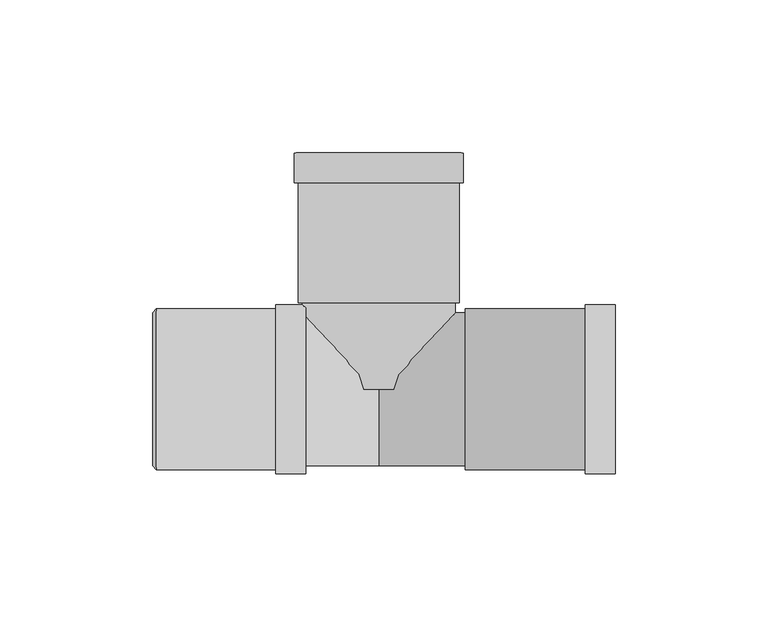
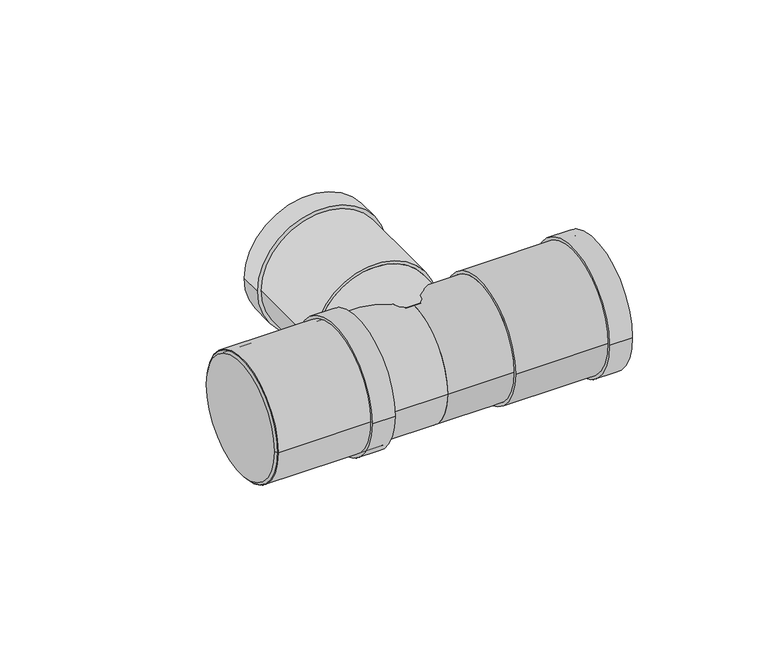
"""IFC4 building model written with IfcOpenShell, lengths in millimetres: pipe fitting geometry, Superdrain HTEA Branch : Superdrain HTEA Branch."""

from ifc_helpers import new_model, si_unit, point, frame, origin, origin_2d, place, context, project, spatial, polyline, circle_curve, trimmed, segment, composite_curve, outline, extrude, source, transform, mapped, element, save
from ifc_brep_helpers import plane_surface, revolved_surface, advanced_brep


def pipe_fitting_7ab4710a(model_context):
    return source(origin(), model_context, "Body", "SolidModel", [
        extrude(outline(composite_curve([segment(trimmed(circle_curve(origin_2d(), 26.25), [point((26.25, 0.0))], [point((-26.25, 0.0))], False, "CARTESIAN"), True, "CONTINUOUS"), segment(trimmed(circle_curve(origin_2d(), 26.25), [point((-26.25, 0.0))], [point((26.25, 0.0))], False, "CARTESIAN"), True, "CONTINUOUS")], self_intersect=False), holes=[composite_curve([segment(trimmed(circle_curve(origin_2d(), 25.0), [point((25.0, 0.0))], [point((-25.0, 0.0))], True, "CARTESIAN"), True, "CONTINUOUS"), segment(trimmed(circle_curve(origin_2d(), 25.0), [point((-25.0, 0.0))], [point((25.0, 0.0))], True, "CARTESIAN"), True, "CONTINUOUS")], self_intersect=False)]), frame((-72.8, 0.0, 0.0), z_axis=(1.0, 0.0, 0.0), x_axis=(0.0, 1.0, 0.0)), (0.0, 0.0, 1.0), 49.0),
        extrude(outline(composite_curve([segment(trimmed(circle_curve(origin_2d(), 27.5625), [point((27.5625, 0.0))], [point((-27.5625, 0.0))], False, "CARTESIAN"), True, "CONTINUOUS"), segment(trimmed(circle_curve(origin_2d(), 27.5625), [point((-27.5625, 0.0))], [point((27.5625, 0.0))], False, "CARTESIAN"), True, "CONTINUOUS")], self_intersect=False), holes=[composite_curve([segment(trimmed(circle_curve(origin_2d(), 25.0), [point((25.0, 0.0))], [point((-25.0, 0.0))], True, "CARTESIAN"), True, "CONTINUOUS"), segment(trimmed(circle_curve(origin_2d(), 25.0), [point((-25.0, 0.0))], [point((25.0, 0.0))], True, "CARTESIAN"), True, "CONTINUOUS")], self_intersect=False)]), frame((-33.6, 0.0, 0.0), z_axis=(1.0, 0.0, 0.0), x_axis=(0.0, 1.0, 0.0)), (0.0, 0.0, 1.0), 9.8),
        advanced_brep(
        [(-73.8, 25.0, 0.0), (-73.8, -25.0, 0.0), (-72.8, 26.25, 0.0), (-72.8, -26.25, 0.0)],
        [
            (0, 1, circle_curve(frame((-73.8, 0.0, 0.0), z_axis=(-1.0, 0.0, 0.0), x_axis=(0.0, 1.0000000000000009, 0.0)), 25.0)),
            (1, 0, circle_curve(frame((-73.8, 0.0, 0.0), z_axis=(-1.0, 0.0, 0.0), x_axis=(0.0, -1.0000000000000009, 0.0)), 25.0)),
            (2, 3, circle_curve(frame((-72.8, 0.0, 0.0), z_axis=(1.0, 0.0, 0.0), x_axis=(0.0, -1.0000000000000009, 0.0)), 26.25)),
            (3, 2, circle_curve(frame((-72.8, 0.0, 0.0), z_axis=(1.0, 0.0, 0.0), x_axis=(0.0, 1.0000000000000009, 0.0)), 26.25)),
            (3, 1),
            (0, 2),
        ],
        [
            plane_surface(frame((-73.8, 0.0, 0.0), z_axis=(-1.0, 0.0, 0.0), x_axis=(0.0, 0.0, -1.0))),
            plane_surface(frame((-72.8, 0.0, 0.0), z_axis=(1.0, 0.0, 0.0), x_axis=(0.0, 0.0, -1.0))),
            revolved_surface(polyline([(-73.8, 24.999999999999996, 0.0), (-72.8, 26.25, 0.0)]), (-93.8, 0.0, 0.0), (1.0000000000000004, 0.0, 0.0)),
            revolved_surface(polyline([(-73.8, -24.999999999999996, 0.0), (-72.8, -26.25, 0.0)]), (-93.8, 0.0, 0.0), (1.0000000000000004, 0.0, 0.0)),
        ],
        [
            (0, [[1, 2]]),
            (1, [[3, 4]]),
            (2, [[-4, 5, -1, 6]]),
            (3, [[-3, -6, -2, -5]]),
        ],
    ),
        extrude(outline(composite_curve([segment(trimmed(circle_curve(origin_2d(), 26.25), [point((-26.25, 0.0))], [point((26.25, 0.0))], False, "CARTESIAN"), True, "CONTINUOUS"), segment(trimmed(circle_curve(origin_2d(), 26.25), [point((26.25, 0.0))], [point((-26.25, 0.0))], False, "CARTESIAN"), True, "CONTINUOUS")], self_intersect=False), holes=[composite_curve([segment(trimmed(circle_curve(origin_2d(), 25.0), [point((25.0, 0.0))], [point((-25.0, 0.0))], True, "CARTESIAN"), True, "CONTINUOUS"), segment(trimmed(circle_curve(origin_2d(), 25.0), [point((-25.0, 0.0))], [point((25.0, 0.0))], True, "CARTESIAN"), True, "CONTINUOUS")], self_intersect=False)]), frame((28.2, 0.0, 0.0), z_axis=(1.0, 0.0, 0.0), x_axis=(0.0, 1.0, 0.0)), (0.0, 0.0, 1.0), 49.0),
        extrude(outline(composite_curve([segment(trimmed(circle_curve(origin_2d(), 27.5625), [point((27.5625, 0.0))], [point((-27.5625, 0.0))], False, "CARTESIAN"), True, "CONTINUOUS"), segment(trimmed(circle_curve(origin_2d(), 27.5625), [point((-27.5625, 0.0))], [point((27.5625, 0.0))], False, "CARTESIAN"), True, "CONTINUOUS")], self_intersect=False), holes=[composite_curve([segment(trimmed(circle_curve(origin_2d(), 25.0), [point((25.0, 0.0))], [point((-25.0, 0.0))], True, "CARTESIAN"), True, "CONTINUOUS"), segment(trimmed(circle_curve(origin_2d(), 25.0), [point((-25.0, 0.0))], [point((25.0, 0.0))], True, "CARTESIAN"), True, "CONTINUOUS")], self_intersect=False)]), frame((67.4, 0.0, 0.0), z_axis=(1.0, 0.0, 0.0), x_axis=(0.0, 1.0, 0.0)), (0.0, 0.0, 1.0), 9.8),
        extrude(outline(composite_curve([segment(trimmed(circle_curve(origin_2d(), 25.0), [point((0.0, 25.0))], [point((0.0, -25.0))], False, "CARTESIAN"), True, "CONTINUOUS"), segment(trimmed(circle_curve(origin_2d(), 25.0), [point((0.0, -25.0))], [point((0.0, 25.0))], False, "CARTESIAN"), True, "CONTINUOUS")], self_intersect=False)), frame((0.0, 0.0, 0.0), z_axis=(0.0, 1.0, 0.0), x_axis=(0.0, 0.0, 1.0)), (0.0, 0.0, 1.0), 28.2),
        extrude(outline(composite_curve([segment(trimmed(circle_curve(origin_2d(), 25.0), [point((25.0, 0.0))], [point((-25.0, 0.0))], False, "CARTESIAN"), True, "CONTINUOUS"), segment(trimmed(circle_curve(origin_2d(), 25.0), [point((-25.0, 0.0))], [point((25.0, 0.0))], False, "CARTESIAN"), True, "CONTINUOUS")], self_intersect=False)), frame((-72.8, 0.0, 0.0), z_axis=(1.0, 0.0, 0.0), x_axis=(0.0, 1.0, 0.0)), (0.0, 0.0, 1.0), 72.8),
        extrude(outline(composite_curve([segment(trimmed(circle_curve(origin_2d(), 25.0), [point((-25.0, 0.0))], [point((25.0, 0.0))], False, "CARTESIAN"), True, "CONTINUOUS"), segment(trimmed(circle_curve(origin_2d(), 25.0), [point((25.0, 0.0))], [point((-25.0, 0.0))], False, "CARTESIAN"), True, "CONTINUOUS")], self_intersect=False)), frame((0.0, 0.0, 0.0), z_axis=(1.0, 0.0, 0.0), x_axis=(0.0, 1.0, 0.0)), (0.0, 0.0, 1.0), 28.2),
        extrude(outline(composite_curve([segment(trimmed(circle_curve(origin_2d(), 27.5625), [point((0.0, 27.5625))], [point((0.0, -27.5625))], False, "CARTESIAN"), True, "CONTINUOUS"), segment(trimmed(circle_curve(origin_2d(), 27.5625), [point((0.0, -27.5625))], [point((0.0, 27.5625))], False, "CARTESIAN"), True, "CONTINUOUS")], self_intersect=False), holes=[composite_curve([segment(trimmed(circle_curve(origin_2d(), 25.0), [point((0.0, 25.0))], [point((0.0, -25.0))], True, "CARTESIAN"), True, "CONTINUOUS"), segment(trimmed(circle_curve(origin_2d(), 25.0), [point((0.0, -25.0))], [point((0.0, 25.0))], True, "CARTESIAN"), True, "CONTINUOUS")], self_intersect=False)]), frame((0.0, 67.4, 0.0), z_axis=(0.0, 1.0, 0.0), x_axis=(0.0, 0.0, 1.0)), (0.0, 0.0, 1.0), 9.8),
        extrude(outline(composite_curve([segment(trimmed(circle_curve(origin_2d(), 26.25), [point((0.0, 26.25))], [point((0.0, -26.25))], False, "CARTESIAN"), True, "CONTINUOUS"), segment(trimmed(circle_curve(origin_2d(), 26.25), [point((0.0, -26.25))], [point((0.0, 26.25))], False, "CARTESIAN"), True, "CONTINUOUS")], self_intersect=False), holes=[composite_curve([segment(trimmed(circle_curve(origin_2d(), 25.0), [point((0.0, 25.0))], [point((0.0, -25.0))], True, "CARTESIAN"), True, "CONTINUOUS"), segment(trimmed(circle_curve(origin_2d(), 25.0), [point((0.0, -25.0))], [point((0.0, 25.0))], True, "CARTESIAN"), True, "CONTINUOUS")], self_intersect=False)]), frame((0.0, 28.2, 0.0), z_axis=(0.0, 1.0, 0.0), x_axis=(0.0, 0.0, 1.0)), (0.0, 0.0, 1.0), 49.0),
    ])


if __name__ == "__main__":
    model = new_model("IFC4")
    model_context = context("Model", 3, world=origin())
    ifc_project = project(units=[si_unit("LENGTHUNIT", "METRE", prefix="MILLI")], contexts=[model_context])
    site = spatial("IfcSite", under=ifc_project)
    building = spatial("IfcBuilding", under=site)
    placement = place(None, origin())
    pipe_fitting_shape = pipe_fitting_7ab4710a(model_context)
    element("IfcPipeFitting", 1, ObjectType="Superdrain HTEA Branch : Superdrain HTEA Branch", at=placement, inside=building, context=model_context, shape_type="MappedRepresentation", body=[
        mapped(pipe_fitting_shape, transform((0.0, 0.0, 0.0), x_axis=(1.0, 0.0, 0.0), y_axis=(0.0, 1.0, 0.0), z_axis=(0.0, 0.0, 1.0))),
    ])
    save(model, "model.ifc")
